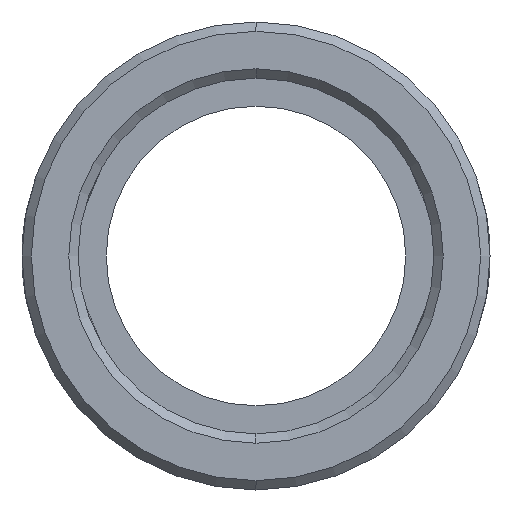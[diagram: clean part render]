
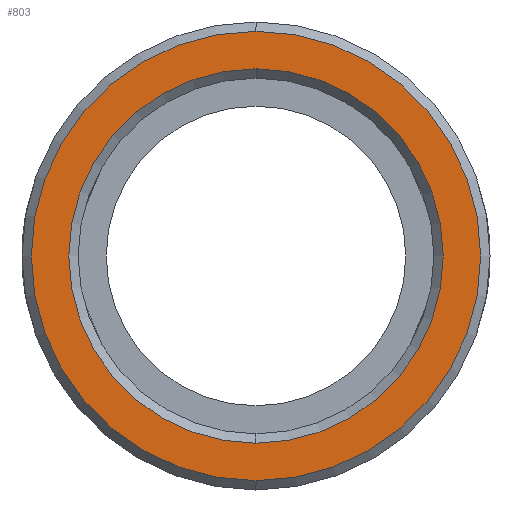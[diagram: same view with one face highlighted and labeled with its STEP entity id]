
A CAD part, left-side view. The second image highlights one B-rep face of the part: STEP entity #803.
In plain terms, the highlighted planar face has unit normal (-1, 0, 0).
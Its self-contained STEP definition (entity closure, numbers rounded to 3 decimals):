
#20 = DIRECTION ( 'NONE',  ( -1., 0., 0. ) ) ;
#71 = FACE_BOUND ( 'NONE', #405, .T. ) ;
#120 = CARTESIAN_POINT ( 'NONE',  ( 0., 0., 0. ) ) ;
#249 = CARTESIAN_POINT ( 'NONE',  ( 0., 0., 12. ) ) ;
#405 = EDGE_LOOP ( 'NONE', ( #476, #1210 ) ) ;
#437 = EDGE_CURVE ( 'NONE', #1376, #536, #479, .T. ) ;
#476 = ORIENTED_EDGE ( 'NONE', *, *, #1186, .T. ) ;
#479 = CIRCLE ( 'NONE', #1271, 12. ) ;
#482 = CARTESIAN_POINT ( 'NONE',  ( 0., 0., 0. ) ) ;
#483 = DIRECTION ( 'NONE',  ( 0., 0., -1. ) ) ;
#485 = DIRECTION ( 'NONE',  ( 1., 0., 0. ) ) ;
#488 = DIRECTION ( 'NONE',  ( -1., 0., 0. ) ) ;
#492 = CARTESIAN_POINT ( 'NONE',  ( 0., 0., 0. ) ) ;
#508 = DIRECTION ( 'NONE',  ( 0., 0., -1. ) ) ;
#536 = VERTEX_POINT ( 'NONE', #249 ) ;
#560 = CIRCLE ( 'NONE', #933, 12. ) ;
#571 = EDGE_LOOP ( 'NONE', ( #604, #847 ) ) ;
#592 = FACE_OUTER_BOUND ( 'NONE', #571, .T. ) ;
#604 = ORIENTED_EDGE ( 'NONE', *, *, #437, .T. ) ;
#644 = AXIS2_PLACEMENT_3D ( 'NONE', #482, #485, #508 ) ;
#708 = CARTESIAN_POINT ( 'NONE',  ( 0., 0., -10. ) ) ;
#729 = CARTESIAN_POINT ( 'NONE',  ( 0., 9.5, 0. ) ) ;
#763 = DIRECTION ( 'NONE',  ( 0., 0., -1. ) ) ;
#765 = VERTEX_POINT ( 'NONE', #708 ) ;
#769 = DIRECTION ( 'NONE',  ( 1., 0., 0. ) ) ;
#803 = ADVANCED_FACE ( 'NONE', ( #71, #592 ), #929, .F. ) ;
#836 = AXIS2_PLACEMENT_3D ( 'NONE', #987, #1172, #1281 ) ;
#847 = ORIENTED_EDGE ( 'NONE', *, *, #973, .T. ) ;
#857 = DIRECTION ( 'NONE',  ( 0., 0., -1. ) ) ;
#929 = PLANE ( 'NONE',  #958 ) ;
#933 = AXIS2_PLACEMENT_3D ( 'NONE', #120, #20, #857 ) ;
#954 = EDGE_CURVE ( 'NONE', #765, #1428, #969, .T. ) ;
#958 = AXIS2_PLACEMENT_3D ( 'NONE', #729, #769, #763 ) ;
#969 = CIRCLE ( 'NONE', #836, 10. ) ;
#973 = EDGE_CURVE ( 'NONE', #536, #1376, #560, .T. ) ;
#987 = CARTESIAN_POINT ( 'NONE',  ( 0., 0., 0. ) ) ;
#1048 = CIRCLE ( 'NONE', #644, 10. ) ;
#1172 = DIRECTION ( 'NONE',  ( 1., 0., 0. ) ) ;
#1186 = EDGE_CURVE ( 'NONE', #1428, #765, #1048, .T. ) ;
#1188 = CARTESIAN_POINT ( 'NONE',  ( 0., 0., 10. ) ) ;
#1210 = ORIENTED_EDGE ( 'NONE', *, *, #954, .T. ) ;
#1271 = AXIS2_PLACEMENT_3D ( 'NONE', #492, #488, #483 ) ;
#1281 = DIRECTION ( 'NONE',  ( 0., 0., -1. ) ) ;
#1329 = CARTESIAN_POINT ( 'NONE',  ( 0., 0., -12. ) ) ;
#1376 = VERTEX_POINT ( 'NONE', #1329 ) ;
#1428 = VERTEX_POINT ( 'NONE', #1188 ) ;
